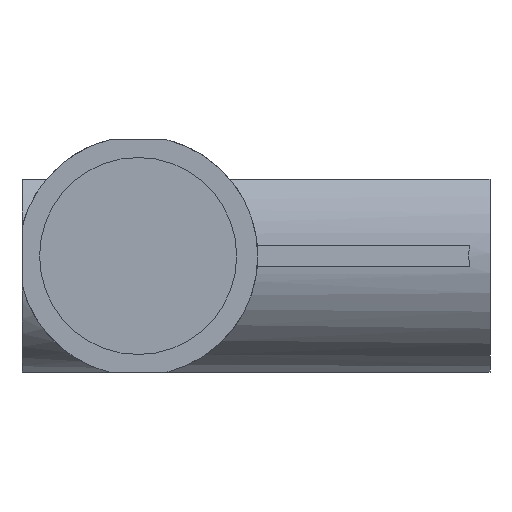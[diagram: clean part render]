
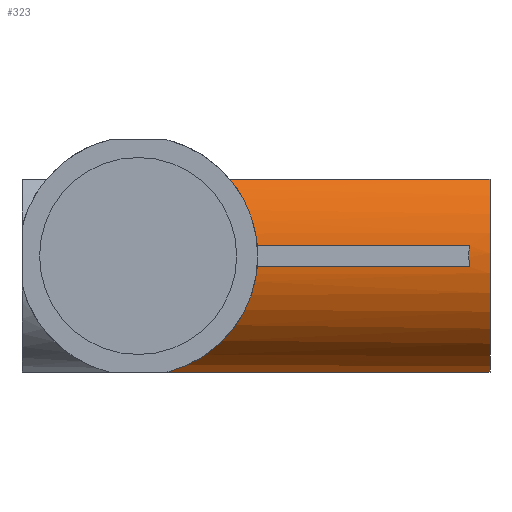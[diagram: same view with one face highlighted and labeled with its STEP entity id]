
A CAD part, left-side view. The second image highlights one B-rep face of the part: STEP entity #323.
In plain terms, the highlighted cylindrical face has radius 17 mm (diameter 34 mm), a partial arc.
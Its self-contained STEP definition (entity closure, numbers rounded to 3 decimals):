
#13 = CARTESIAN_POINT ( 'NONE',  ( -17.022, -46.978, -0.501 ) ) ;
#59 = DIRECTION ( 'NONE',  ( 0., 1., 0. ) ) ;
#68 = ORIENTED_EDGE ( 'NONE', *, *, #190, .F. ) ;
#84 = CARTESIAN_POINT ( 'NONE',  ( -16.934, -16.934, 1.5 ) ) ;
#87 =( BOUNDED_CURVE ( )  B_SPLINE_CURVE ( 3, ( #1086, #13, #637, #744 ),
 .UNSPECIFIED., .F., .T. ) 
 B_SPLINE_CURVE_WITH_KNOTS ( ( 4, 4 ),
 ( 6.195, 6.372 ),
 .UNSPECIFIED. ) 
 CURVE ( )  GEOMETRIC_REPRESENTATION_ITEM ( )  RATIONAL_B_SPLINE_CURVE ( ( 1., 0.997, 0.997, 1. ) ) 
 REPRESENTATION_ITEM ( '' )  );
#88 = ORIENTED_EDGE ( 'NONE', *, *, #1028, .F. ) ;
#143 = LINE ( 'NONE', #605, #592 ) ;
#167 = CARTESIAN_POINT ( 'NONE',  ( -16.624, -16.624, 4.996 ) ) ;
#171 = CARTESIAN_POINT ( 'NONE',  ( -15.279, -15.279, 8.239 ) ) ;
#180 = VERTEX_POINT ( 'NONE', #451 ) ;
#190 = EDGE_CURVE ( 'NONE', #668, #901, #87, .T. ) ;
#207 = CARTESIAN_POINT ( 'NONE',  ( -16.934, -50., -1.5 ) ) ;
#209 = CARTESIAN_POINT ( 'NONE',  ( 0., -50., 0. ) ) ;
#214 = CARTESIAN_POINT ( 'NONE',  ( -16.934, -16.934, -1.5 ) ) ;
#221 = LINE ( 'NONE', #207, #435 ) ;
#259 = AXIS2_PLACEMENT_3D ( 'NONE', #209, #1024, #307 ) ;
#284 = CARTESIAN_POINT ( 'NONE',  ( -16.934, -16.934, 1.5 ) ) ;
#307 = DIRECTION ( 'NONE',  ( 0., 0., 1. ) ) ;
#316 = ORIENTED_EDGE ( 'NONE', *, *, #996, .T. ) ;
#318 = EDGE_CURVE ( 'NONE', #463, #443, #482, .T. ) ;
#319 = CYLINDRICAL_SURFACE ( 'NONE', #259, 17. ) ;
#323 = ADVANCED_FACE ( 'NONE', ( #1035 ), #319, .T. ) ;
#381 = AXIS2_PLACEMENT_3D ( 'NONE', #880, #623, #427 ) ;
#427 = DIRECTION ( 'NONE',  ( 0., 0., 1. ) ) ;
#435 = VECTOR ( 'NONE', #1087, 1000. ) ;
#437 = EDGE_CURVE ( 'NONE', #1103, #463, #1074, .T. ) ;
#443 = VERTEX_POINT ( 'NONE', #1067 ) ;
#451 = CARTESIAN_POINT ( 'NONE',  ( -16.934, -16.934, -1.5 ) ) ;
#463 = VERTEX_POINT ( 'NONE', #548 ) ;
#469 = CARTESIAN_POINT ( 'NONE',  ( -4.093, -50., -16.5 ) ) ;
#482 = LINE ( 'NONE', #1012, #964 ) ;
#505 = ORIENTED_EDGE ( 'NONE', *, *, #1146, .F. ) ;
#524 = CARTESIAN_POINT ( 'NONE',  ( -16.934, -50., 1.5 ) ) ;
#539 = CARTESIAN_POINT ( 'NONE',  ( -4.093, -4.093, -16.5 ) ) ;
#548 = CARTESIAN_POINT ( 'NONE',  ( -13.023, -13.023, 10.927 ) ) ;
#592 = VECTOR ( 'NONE', #59, 1000. ) ;
#605 = CARTESIAN_POINT ( 'NONE',  ( -4.093, -50., -16.5 ) ) ;
#623 = DIRECTION ( 'NONE',  ( 0., 1., 0. ) ) ;
#637 = CARTESIAN_POINT ( 'NONE',  ( -17.022, -46.978, 0.501 ) ) ;
#668 = VERTEX_POINT ( 'NONE', #1135 ) ;
#675 = DIRECTION ( 'NONE',  ( 0., -1., 0. ) ) ;
#681 = CARTESIAN_POINT ( 'NONE',  ( -13.023, -13.023, 10.927 ) ) ;
#715 = VERTEX_POINT ( 'NONE', #971 ) ;
#726 = CARTESIAN_POINT ( 'NONE',  ( -16.271, -16.271, -8.984 ) ) ;
#735 = EDGE_CURVE ( 'NONE', #901, #1103, #960, .T. ) ;
#741 = CIRCLE ( 'NONE', #381, 17. ) ;
#744 = CARTESIAN_POINT ( 'NONE',  ( -16.934, -47.066, 1.5 ) ) ;
#758 = ORIENTED_EDGE ( 'NONE', *, *, #735, .F. ) ;
#773 = VERTEX_POINT ( 'NONE', #469 ) ;
#784 = DIRECTION ( 'NONE',  ( 0., 1., 0. ) ) ;
#830 = ORIENTED_EDGE ( 'NONE', *, *, #437, .F. ) ;
#874 =( BOUNDED_CURVE ( )  B_SPLINE_CURVE ( 3, ( #539, #937, #726, #214 ),
 .UNSPECIFIED., .F., .T. ) 
 B_SPLINE_CURVE_WITH_KNOTS ( ( 4, 4 ),
 ( 4.956, 6.195 ),
 .UNSPECIFIED. ) 
 CURVE ( )  GEOMETRIC_REPRESENTATION_ITEM ( )  RATIONAL_B_SPLINE_CURVE ( ( 1., 0.876, 0.876, 1. ) ) 
 REPRESENTATION_ITEM ( '' )  );
#880 = CARTESIAN_POINT ( 'NONE',  ( 0., -50., 0. ) ) ;
#901 = VERTEX_POINT ( 'NONE', #1100 ) ;
#911 = VECTOR ( 'NONE', #784, 1000. ) ;
#915 = ORIENTED_EDGE ( 'NONE', *, *, #973, .T. ) ;
#937 = CARTESIAN_POINT ( 'NONE',  ( -11.385, -11.385, -14.691 ) ) ;
#960 = LINE ( 'NONE', #524, #911 ) ;
#964 = VECTOR ( 'NONE', #675, 1000. ) ;
#971 = CARTESIAN_POINT ( 'NONE',  ( -4.093, -4.093, -16.5 ) ) ;
#973 = EDGE_CURVE ( 'NONE', #773, #443, #741, .T. ) ;
#996 = EDGE_CURVE ( 'NONE', #668, #180, #221, .T. ) ;
#1012 = CARTESIAN_POINT ( 'NONE',  ( -13.023, -50., 10.927 ) ) ;
#1024 = DIRECTION ( 'NONE',  ( 0., 1., 0. ) ) ;
#1028 = EDGE_CURVE ( 'NONE', #715, #180, #874, .T. ) ;
#1035 = FACE_OUTER_BOUND ( 'NONE', #1064, .T. ) ;
#1064 = EDGE_LOOP ( 'NONE', ( #758, #68, #316, #88, #505, #915, #1151, #830 ) ) ;
#1067 = CARTESIAN_POINT ( 'NONE',  ( -13.023, -50., 10.927 ) ) ;
#1074 =( BOUNDED_CURVE ( )  B_SPLINE_CURVE ( 3, ( #84, #167, #171, #681 ),
 .UNSPECIFIED., .F., .T. ) 
 B_SPLINE_CURVE_WITH_KNOTS ( ( 4, 4 ),
 ( 0.088, 0.698 ),
 .UNSPECIFIED. ) 
 CURVE ( )  GEOMETRIC_REPRESENTATION_ITEM ( )  RATIONAL_B_SPLINE_CURVE ( ( 1., 0.969, 0.969, 1. ) ) 
 REPRESENTATION_ITEM ( '' )  );
#1086 = CARTESIAN_POINT ( 'NONE',  ( -16.934, -47.066, -1.5 ) ) ;
#1087 = DIRECTION ( 'NONE',  ( 0., 1., 0. ) ) ;
#1100 = CARTESIAN_POINT ( 'NONE',  ( -16.934, -47.066, 1.5 ) ) ;
#1103 = VERTEX_POINT ( 'NONE', #284 ) ;
#1135 = CARTESIAN_POINT ( 'NONE',  ( -16.934, -47.066, -1.5 ) ) ;
#1146 = EDGE_CURVE ( 'NONE', #773, #715, #143, .T. ) ;
#1151 = ORIENTED_EDGE ( 'NONE', *, *, #318, .F. ) ;
